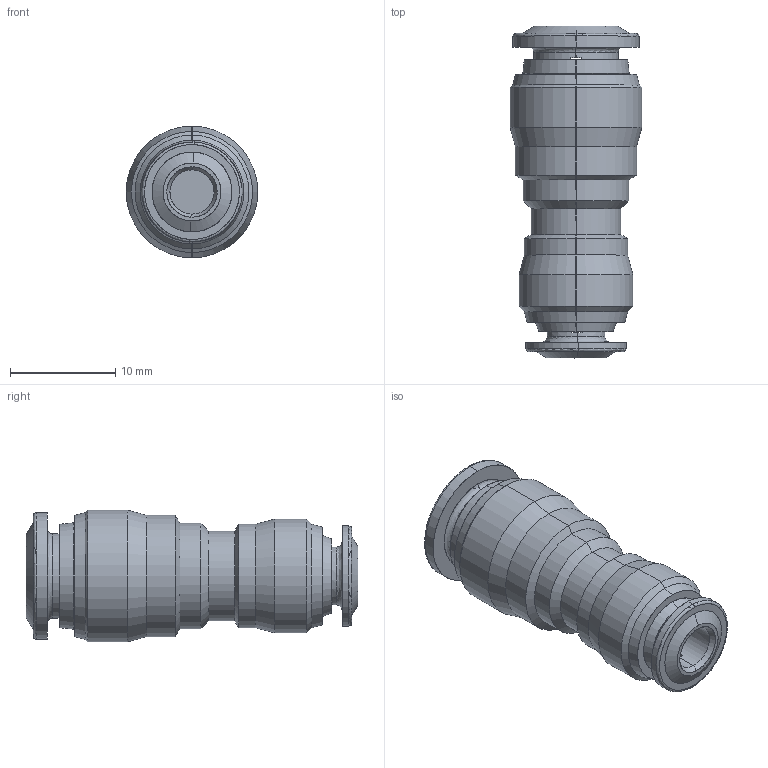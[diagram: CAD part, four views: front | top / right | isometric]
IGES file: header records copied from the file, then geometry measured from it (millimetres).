
Start section: SolidWorks IGES file using analytic representation for surfaces
Global section: file name: K:\Disegni Esecutivi\Serie 57000\ASSIEMI_57000\57040\ASSIEMI_PIENI_57040\5704000002.IGS; native system: SolidWorks 2007; preprocessor: SolidWorks 2007; author: cad02; date: 080201.163638; units: millimetre
Bounding box: 12.5 x 31.5 x 12.5 mm (x, y, z)
Surface area: 1630.9 mm2 (no closed solid volume)
Topology: 0 solids, 0 shells, 96 faces, 1216 edges, 1216 vertices
Faces by surface type: revolution 62, bspline 34
